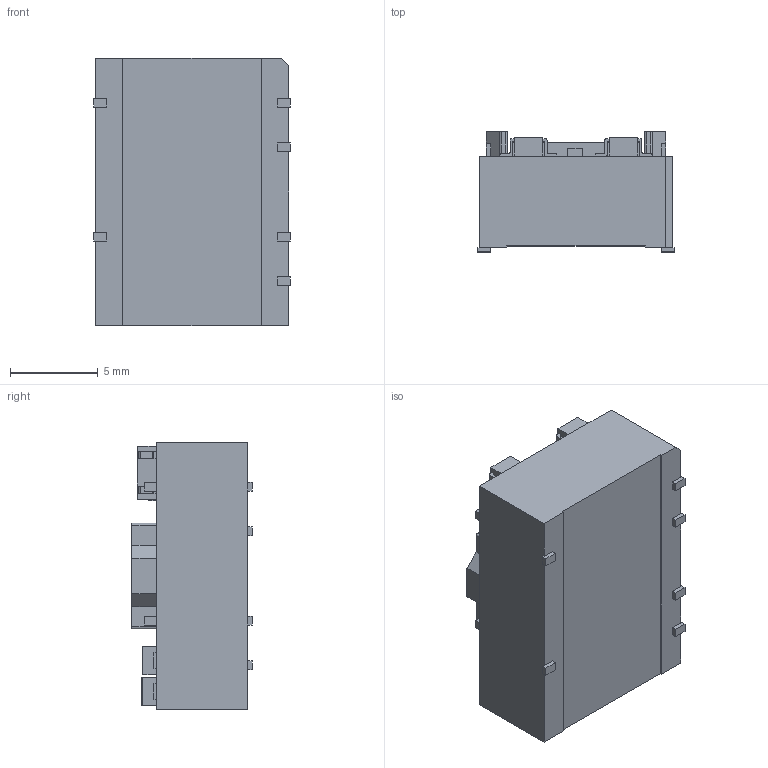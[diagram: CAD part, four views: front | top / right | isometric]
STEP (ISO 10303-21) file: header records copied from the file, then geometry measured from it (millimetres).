
FILE_DESCRIPTION(/* description */ ('Unknown'),/* implementation_level */ '2;1');
FILE_NAME(/* name */ 'ISD01(D)',/* time_stamp */ '2017-11-02T11:24:16+08:00',/* author */ ('Unknown'),/* organization */ ('Unknown'),/* preprocessor_version */ 'ST-DEVELOPER v16.7',/* originating_system */ 'DEX',/* authorisation */ $);
FILE_SCHEMA (('AUTOMOTIVE_DESIGN {1 0 10303 214 3 1 1}'));
Length unit declared in the file: millimetre
Products named in the file (5): ISD01(D); SOD123; SMT3; 0603; F1-ﾂ鬣XｨtQ礰R3
Assembly tree (8 placements, depth 2):
  ISD01(D)
    SOD123  x4
    SMT3  x2
    0603
    F1-ﾂ鬣XｨtQ礰R3
Bounding box: 11.2 x 6.85 x 15.24 mm (x, y, z)
Volume: 843.9 mm3; surface area: 1049.4 mm2
Topology: 8 solids, 9 shells, 326 faces, 861 edges, 570 vertices
Faces by surface type: plane 283, cylinder 32, bspline 11
Entity records: 7524 total; most frequent: CARTESIAN_POINT 1634, ORIENTED_EDGE 1230, DIRECTION 1095, EDGE_CURVE 615, LINE 553, VECTOR 553, VERTEX_POINT 406, AXIS2_PLACEMENT_3D 271
